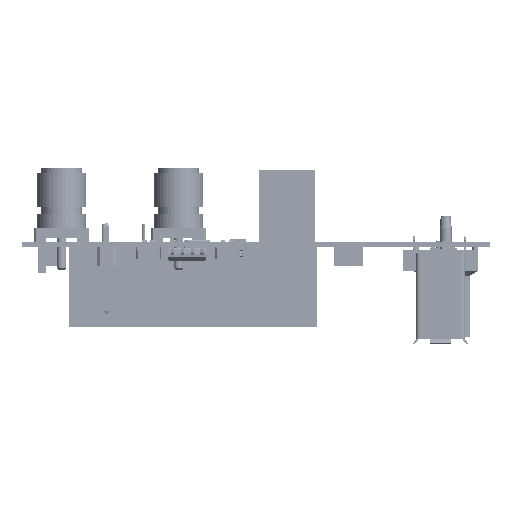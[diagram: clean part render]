
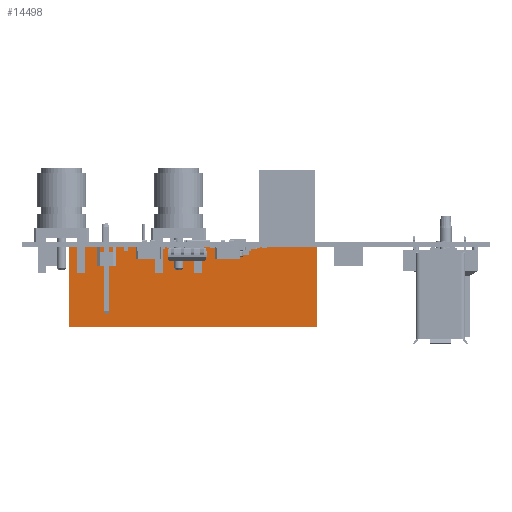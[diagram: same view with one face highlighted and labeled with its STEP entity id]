
A CAD part, left-side view. The second image highlights one B-rep face of the part: STEP entity #14498.
In plain terms, the highlighted planar face has unit normal (-1, 0, 0) as drawn and (0, 0, -1) by its records, which use the part's own axes.
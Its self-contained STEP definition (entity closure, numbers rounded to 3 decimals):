
#14498 = ADVANCED_FACE('',(#14499),#14533,.F.);
#14499 = FACE_BOUND('',#14500,.T.);
#14500 = EDGE_LOOP('',(#14501,#14511,#14519,#14527));
#14501 = ORIENTED_EDGE('',*,*,#14502,.F.);
#14502 = EDGE_CURVE('',#14503,#14505,#14507,.T.);
#14503 = VERTEX_POINT('',#14504);
#14504 = CARTESIAN_POINT('',(-15.875,10.16,-10.391));
#14505 = VERTEX_POINT('',#14506);
#14506 = CARTESIAN_POINT('',(-15.875,0.,-10.391));
#14507 = LINE('',#14508,#14509);
#14508 = CARTESIAN_POINT('',(-15.875,10.56,-10.391));
#14509 = VECTOR('',#14510,1.);
#14510 = DIRECTION('',(0.,-1.,0.));
#14511 = ORIENTED_EDGE('',*,*,#14512,.T.);
#14512 = EDGE_CURVE('',#14503,#14513,#14515,.T.);
#14513 = VERTEX_POINT('',#14514);
#14514 = CARTESIAN_POINT('',(15.875,10.16,-10.391));
#14515 = LINE('',#14516,#14517);
#14516 = CARTESIAN_POINT('',(15.875,10.16,-10.391));
#14517 = VECTOR('',#14518,1.);
#14518 = DIRECTION('',(1.,0.,0.));
#14519 = ORIENTED_EDGE('',*,*,#14520,.T.);
#14520 = EDGE_CURVE('',#14513,#14521,#14523,.T.);
#14521 = VERTEX_POINT('',#14522);
#14522 = CARTESIAN_POINT('',(15.875,0.,-10.391));
#14523 = LINE('',#14524,#14525);
#14524 = CARTESIAN_POINT('',(15.875,10.56,-10.391));
#14525 = VECTOR('',#14526,1.);
#14526 = DIRECTION('',(0.,-1.,0.));
#14527 = ORIENTED_EDGE('',*,*,#14528,.T.);
#14528 = EDGE_CURVE('',#14521,#14505,#14529,.T.);
#14529 = LINE('',#14530,#14531);
#14530 = CARTESIAN_POINT('',(-15.875,0.,-10.391));
#14531 = VECTOR('',#14532,1.);
#14532 = DIRECTION('',(-1.,0.,0.));
#14533 = PLANE('',#14534);
#14534 = AXIS2_PLACEMENT_3D('',#14535,#14536,#14537);
#14535 = CARTESIAN_POINT('',(-15.875,10.56,-10.391));
#14536 = DIRECTION('',(0.,0.,1.));
#14537 = DIRECTION('',(1.,0.,-0.));
